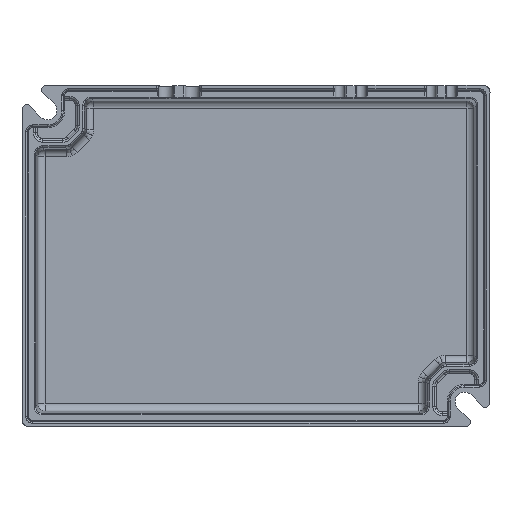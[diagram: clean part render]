
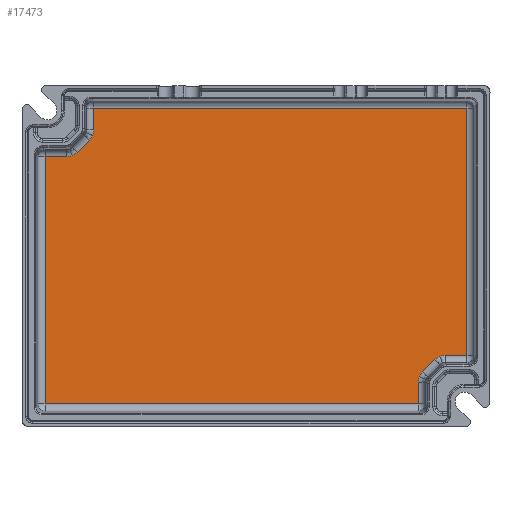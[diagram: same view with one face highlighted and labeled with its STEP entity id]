
A CAD part, front view. The second image highlights one B-rep face of the part: STEP entity #17473.
In plain terms, the highlighted planar face has unit normal (0, -1, 0).
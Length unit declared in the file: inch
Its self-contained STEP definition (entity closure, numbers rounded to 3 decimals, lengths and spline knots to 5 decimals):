
#2788=DIRECTION('',(-1.,0.,0.));
#2789=VECTOR('',#2788,2.99001);
#2790=CARTESIAN_POINT('',(1.69,1.18,1.185));
#2791=LINE('',#2790,#2789);
#2811=DIRECTION('',(0.,0.,1.));
#2812=VECTOR('',#2811,1.98001);
#2813=CARTESIAN_POINT('',(1.69,1.18,-0.795));
#2814=LINE('',#2813,#2812);
#2834=DIRECTION('',(1.,0.,0.));
#2835=VECTOR('',#2834,0.17193);
#2836=CARTESIAN_POINT('',(1.51807,1.18,-0.795));
#2837=LINE('',#2836,#2835);
#2846=CARTESIAN_POINT('',(1.47216,1.18,-0.80414));
#2866=CARTESIAN_POINT('',(1.30914,1.18,-0.96716));
#2878=DIRECTION('',(0.,0.,1.));
#2879=VECTOR('',#2878,0.17193);
#2880=CARTESIAN_POINT('',(1.3,1.18,-1.185));
#2881=LINE('',#2880,#2879);
#2905=DIRECTION('',(1.,0.,0.));
#2906=VECTOR('',#2905,2.99001);
#2907=CARTESIAN_POINT('',(-1.69,1.18,-1.185));
#2908=LINE('',#2907,#2906);
#2928=DIRECTION('',(0.,0.,-1.));
#2929=VECTOR('',#2928,1.98001);
#2930=CARTESIAN_POINT('',(-1.69,1.18,0.795));
#2931=LINE('',#2930,#2929);
#2951=DIRECTION('',(-1.,0.,0.));
#2952=VECTOR('',#2951,0.17193);
#2953=CARTESIAN_POINT('',(-1.51807,1.18,0.795));
#2954=LINE('',#2953,#2952);
#2959=CARTESIAN_POINT('',(-1.47216,1.18,0.80414));
#2979=CARTESIAN_POINT('',(-1.30914,1.18,0.96716));
#2995=DIRECTION('',(0.,0.,-1.));
#2996=VECTOR('',#2995,0.17193);
#2997=CARTESIAN_POINT('',(-1.3,1.18,1.185));
#2998=LINE('',#2997,#2996);
#2999=CARTESIAN_POINT('',(1.51807,1.18,-0.795));
#3000=CARTESIAN_POINT('',(1.50236,1.18,-0.795));
#3001=CARTESIAN_POINT('',(1.48667,1.18,-0.79812));
#3002=CARTESIAN_POINT('',(1.47216,1.18,-0.80414));
#3004=CARTESIAN_POINT('',(1.47216,1.18,-0.80414));
#3005=CARTESIAN_POINT('',(1.45764,1.18,-0.81015));
#3006=CARTESIAN_POINT('',(1.44434,1.18,-0.81903));
#3007=CARTESIAN_POINT('',(1.43323,1.18,-0.83015));
#3009=DIRECTION('',(-0.707,0.,-0.707));
#3010=VECTOR('',#3009,0.13871);
#3011=CARTESIAN_POINT('',(1.43323,1.18,-0.83015));
#3012=LINE('',#3011,#3010);
#3013=CARTESIAN_POINT('',(1.33515,1.18,-0.92823));
#3014=CARTESIAN_POINT('',(1.32403,1.18,-0.93934));
#3015=CARTESIAN_POINT('',(1.31515,1.18,-0.95264));
#3016=CARTESIAN_POINT('',(1.30914,1.18,-0.96716));
#3018=CARTESIAN_POINT('',(1.30914,1.18,-0.96716));
#3019=CARTESIAN_POINT('',(1.30312,1.18,-0.98167));
#3020=CARTESIAN_POINT('',(1.3,1.18,-0.99736));
#3021=CARTESIAN_POINT('',(1.3,1.18,-1.01307));
#3023=CARTESIAN_POINT('',(-1.51807,1.18,0.795));
#3024=CARTESIAN_POINT('',(-1.50236,1.18,0.795));
#3025=CARTESIAN_POINT('',(-1.48667,1.18,0.79812));
#3026=CARTESIAN_POINT('',(-1.47216,1.18,0.80414));
#3028=CARTESIAN_POINT('',(-1.47216,1.18,0.80414));
#3029=CARTESIAN_POINT('',(-1.45764,1.18,0.81015));
#3030=CARTESIAN_POINT('',(-1.44434,1.18,0.81903));
#3031=CARTESIAN_POINT('',(-1.43323,1.18,0.83015));
#3033=DIRECTION('',(0.707,0.,0.707));
#3034=VECTOR('',#3033,0.13871);
#3035=CARTESIAN_POINT('',(-1.43323,1.18,0.83015));
#3036=LINE('',#3035,#3034);
#3037=CARTESIAN_POINT('',(-1.33515,1.18,0.92823));
#3038=CARTESIAN_POINT('',(-1.32403,1.18,0.93934));
#3039=CARTESIAN_POINT('',(-1.31515,1.18,0.95264));
#3040=CARTESIAN_POINT('',(-1.30914,1.18,0.96716));
#3042=CARTESIAN_POINT('',(-1.30914,1.18,0.96716));
#3043=CARTESIAN_POINT('',(-1.30312,1.18,0.98167));
#3044=CARTESIAN_POINT('',(-1.3,1.18,0.99736));
#3045=CARTESIAN_POINT('',(-1.3,1.18,1.01307));
#10195=CARTESIAN_POINT('',(-1.3,1.18,1.185));
#10196=VERTEX_POINT('',#10195);
#10197=CARTESIAN_POINT('',(1.69,1.18,1.185));
#10198=VERTEX_POINT('',#10197);
#10201=CARTESIAN_POINT('',(1.69,1.18,-0.795));
#10203=VERTEX_POINT('',#10201);
#10207=CARTESIAN_POINT('',(1.51807,1.18,-0.795));
#10208=VERTEX_POINT('',#10207);
#10209=VERTEX_POINT('',#2846);
#10210=CARTESIAN_POINT('',(1.43323,1.18,-0.83015));
#10211=VERTEX_POINT('',#10210);
#10212=CARTESIAN_POINT('',(1.33515,1.18,-0.92823));
#10213=VERTEX_POINT('',#10212);
#10214=VERTEX_POINT('',#2866);
#10215=CARTESIAN_POINT('',(1.3,1.18,-1.01307));
#10216=VERTEX_POINT('',#10215);
#10217=CARTESIAN_POINT('',(1.3,1.18,-1.185));
#10218=VERTEX_POINT('',#10217);
#10219=CARTESIAN_POINT('',(-1.69,1.18,-1.185));
#10220=VERTEX_POINT('',#10219);
#10221=CARTESIAN_POINT('',(-1.69,1.18,0.795));
#10222=VERTEX_POINT('',#10221);
#10223=CARTESIAN_POINT('',(-1.51807,1.18,0.795));
#10224=VERTEX_POINT('',#10223);
#10225=VERTEX_POINT('',#2959);
#10226=CARTESIAN_POINT('',(-1.43323,1.18,0.83015));
#10227=VERTEX_POINT('',#10226);
#10228=CARTESIAN_POINT('',(-1.33515,1.18,0.92823));
#10229=VERTEX_POINT('',#10228);
#10230=VERTEX_POINT('',#2979);
#10231=CARTESIAN_POINT('',(-1.3,1.18,1.01307));
#10232=VERTEX_POINT('',#10231);
#17448=CARTESIAN_POINT('',(0.,1.18,0.));
#17449=DIRECTION('',(0.,-1.,0.));
#17450=DIRECTION('',(0.,0.,-1.));
#17451=AXIS2_PLACEMENT_3D('',#17448,#17449,#17450);
#17452=PLANE('',#17451);
#17453=ORIENTED_EDGE('',*,*,#17044,.F.);
#17454=ORIENTED_EDGE('',*,*,#17071,.F.);
#17455=ORIENTED_EDGE('',*,*,#17099,.F.);
#17456=ORIENTED_EDGE('',*,*,#17126,.T.);
#17457=ORIENTED_EDGE('',*,*,#17153,.T.);
#17458=ORIENTED_EDGE('',*,*,#17166,.T.);
#17459=ORIENTED_EDGE('',*,*,#17192,.T.);
#17460=ORIENTED_EDGE('',*,*,#17219,.T.);
#17461=ORIENTED_EDGE('',*,*,#17232,.F.);
#17462=ORIENTED_EDGE('',*,*,#17260,.F.);
#17463=ORIENTED_EDGE('',*,*,#17286,.F.);
#17464=ORIENTED_EDGE('',*,*,#17312,.F.);
#17465=ORIENTED_EDGE('',*,*,#17336,.T.);
#17466=ORIENTED_EDGE('',*,*,#17363,.T.);
#17467=ORIENTED_EDGE('',*,*,#17378,.T.);
#17468=ORIENTED_EDGE('',*,*,#17402,.T.);
#17469=ORIENTED_EDGE('',*,*,#17429,.T.);
#17470=ORIENTED_EDGE('',*,*,#17443,.F.);
#17471=EDGE_LOOP('',(#17453,#17454,#17455,#17456,#17457,#17458,#17459,#17460,
#17461,#17462,#17463,#17464,#17465,#17466,#17467,#17468,#17469,#17470));
#17472=FACE_OUTER_BOUND('',#17471,.F.);
#17473=ADVANCED_FACE('',(#17472),#17452,.T.);
#3003=B_SPLINE_CURVE_WITH_KNOTS('',3,(#2999,#3000,#3001,#3002),.UNSPECIFIED.,
.F.,.F.,(4,4),(0.,1.),.UNSPECIFIED.);
#3008=B_SPLINE_CURVE_WITH_KNOTS('',3,(#3004,#3005,#3006,#3007),.UNSPECIFIED.,
.F.,.F.,(4,4),(0.,1.),.UNSPECIFIED.);
#3017=B_SPLINE_CURVE_WITH_KNOTS('',3,(#3013,#3014,#3015,#3016),.UNSPECIFIED.,
.F.,.F.,(4,4),(0.,1.),.UNSPECIFIED.);
#3022=B_SPLINE_CURVE_WITH_KNOTS('',3,(#3018,#3019,#3020,#3021),.UNSPECIFIED.,
.F.,.F.,(4,4),(0.,1.),.UNSPECIFIED.);
#3027=B_SPLINE_CURVE_WITH_KNOTS('',3,(#3023,#3024,#3025,#3026),.UNSPECIFIED.,
.F.,.F.,(4,4),(0.,1.),.UNSPECIFIED.);
#3032=B_SPLINE_CURVE_WITH_KNOTS('',3,(#3028,#3029,#3030,#3031),.UNSPECIFIED.,
.F.,.F.,(4,4),(0.,1.),.UNSPECIFIED.);
#3041=B_SPLINE_CURVE_WITH_KNOTS('',3,(#3037,#3038,#3039,#3040),.UNSPECIFIED.,
.F.,.F.,(4,4),(0.,1.),.UNSPECIFIED.);
#3046=B_SPLINE_CURVE_WITH_KNOTS('',3,(#3042,#3043,#3044,#3045),.UNSPECIFIED.,
.F.,.F.,(4,4),(0.,1.),.UNSPECIFIED.);
#17044=EDGE_CURVE('',#10198,#10196,#2791,.T.);
#17071=EDGE_CURVE('',#10203,#10198,#2814,.T.);
#17099=EDGE_CURVE('',#10208,#10203,#2837,.T.);
#17126=EDGE_CURVE('',#10208,#10209,#3003,.T.);
#17153=EDGE_CURVE('',#10209,#10211,#3008,.T.);
#17166=EDGE_CURVE('',#10211,#10213,#3012,.T.);
#17192=EDGE_CURVE('',#10213,#10214,#3017,.T.);
#17219=EDGE_CURVE('',#10214,#10216,#3022,.T.);
#17232=EDGE_CURVE('',#10218,#10216,#2881,.T.);
#17260=EDGE_CURVE('',#10220,#10218,#2908,.T.);
#17286=EDGE_CURVE('',#10222,#10220,#2931,.T.);
#17312=EDGE_CURVE('',#10224,#10222,#2954,.T.);
#17336=EDGE_CURVE('',#10224,#10225,#3027,.T.);
#17363=EDGE_CURVE('',#10225,#10227,#3032,.T.);
#17378=EDGE_CURVE('',#10227,#10229,#3036,.T.);
#17402=EDGE_CURVE('',#10229,#10230,#3041,.T.);
#17429=EDGE_CURVE('',#10230,#10232,#3046,.T.);
#17443=EDGE_CURVE('',#10196,#10232,#2998,.T.);
